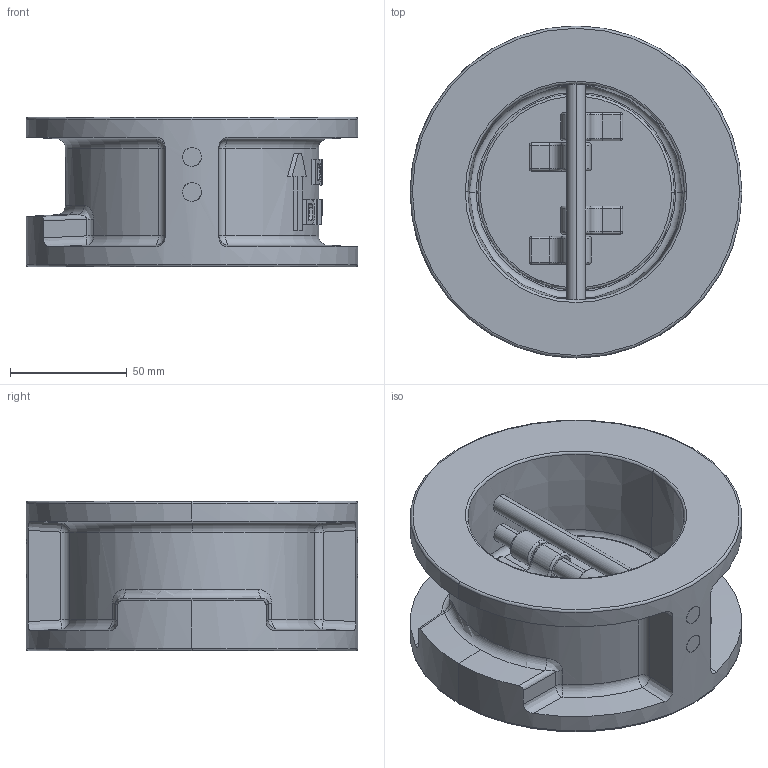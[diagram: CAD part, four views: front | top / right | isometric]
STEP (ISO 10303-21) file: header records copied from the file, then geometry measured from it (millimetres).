
FILE_DESCRIPTION (( 'STEP AP203' ), '1' );
FILE_NAME ('润泽DN80对夹双板止回阀PN16.STEP', '2026-08-19T02:43:51', ( 'Windows 用户' ), ( 'Microsoft' ), 'SwSTEP 2.0', 'SolidWorks 2022', '' );
FILE_SCHEMA (( 'CONFIG_CONTROL_DESIGN' ));
Length unit declared in the file: millimetre
Products named in the file (1): 润泽DN80对夹双板止回阀PN16
Bounding box: 142 x 142 x 64 mm (x, y, z)
Volume: 426155.3 mm3; surface area: 95576.8 mm2
Topology: 1 solids, 1 shells, 356 faces, 877 edges, 540 vertices
Faces by surface type: cylinder 97, plane 93, bspline 89, torus 46, sphere 18, cone 13
Entity records: 13630 total; most frequent: CARTESIAN_POINT 5729, ORIENTED_EDGE 1738, DIRECTION 1453, EDGE_CURVE 869, AXIS2_PLACEMENT_3D 564, VERTEX_POINT 540, EDGE_LOOP 393, ADVANCED_FACE 356
